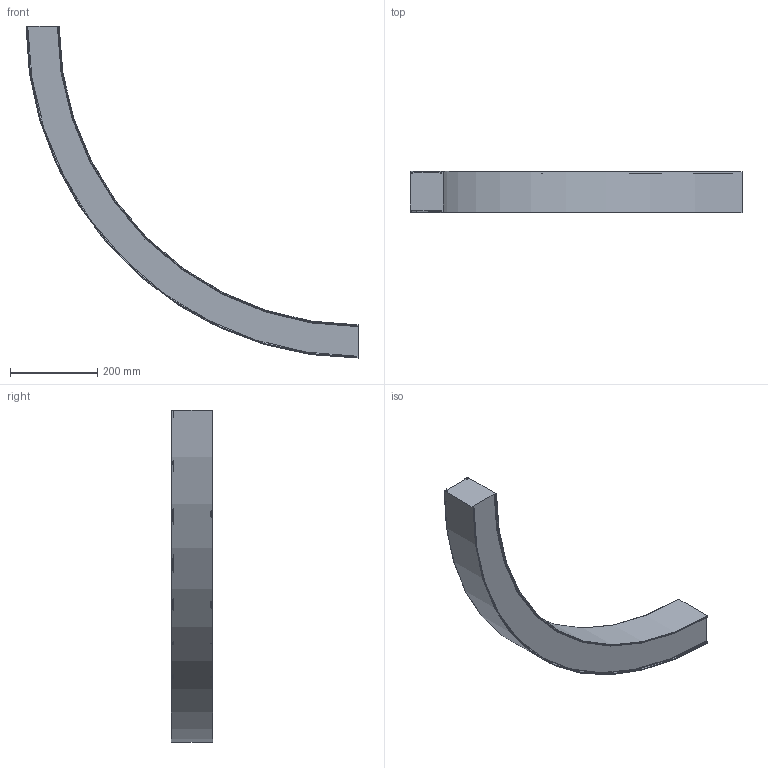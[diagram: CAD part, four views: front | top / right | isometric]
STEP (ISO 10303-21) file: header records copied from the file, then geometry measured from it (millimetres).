
FILE_DESCRIPTION (( 'STEP AP214' ), '1' );
FILE_NAME ('Swerve SM R725 90Deg.STEP', '2019-05-29T02:52:24', ( 'admin' ), ( 'Hewlett-Packard Company' ), 'SwSTEP 2.0', 'SolidWorks 2017', '' );
FILE_SCHEMA (( 'AUTOMOTIVE_DESIGN' ));
Length unit declared in the file: millimetre
Products named in the file (1): Swerve SM R725 90Deg
Bounding box: 763.1 x 95.1 x 763.1 mm (x, y, z)
Volume: 7701351.8 mm3; surface area: 434401.8 mm2
Topology: 1 solids, 1 shells, 46 faces, 132 edges, 88 vertices
Faces by surface type: torus 24, plane 10, cone 8, cylinder 4
Entity records: 1602 total; most frequent: DIRECTION 318, CARTESIAN_POINT 267, ORIENTED_EDGE 264, AXIS2_PLACEMENT_3D 139, EDGE_CURVE 132, CIRCLE 92, VERTEX_POINT 88, ADVANCED_FACE 46
